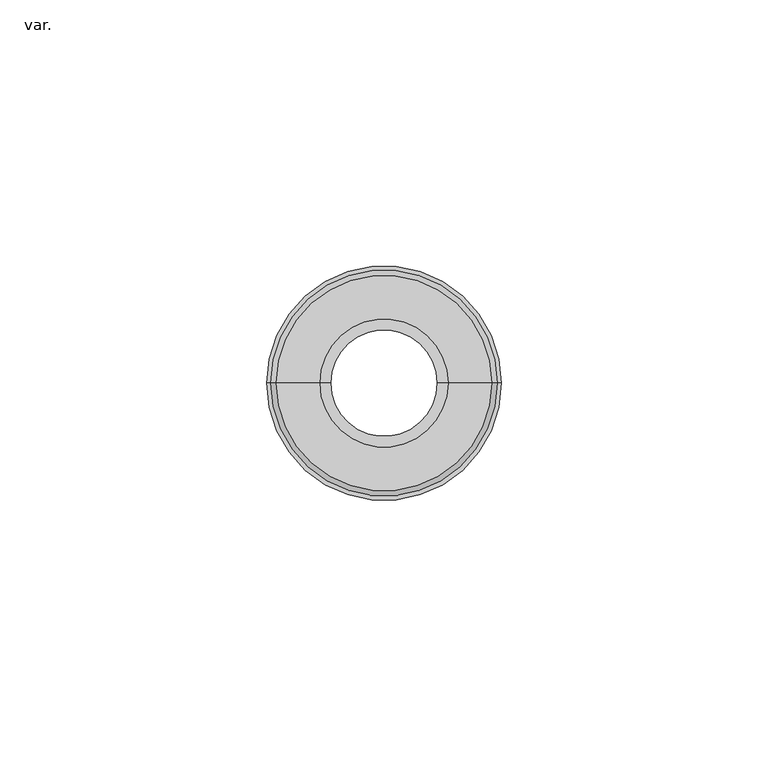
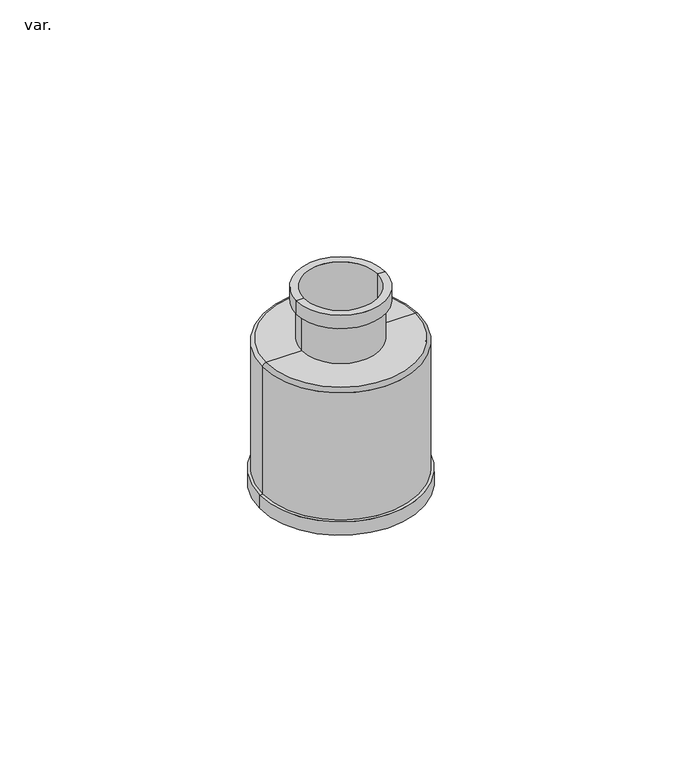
"""IFC4 building model written with IfcOpenShell, lengths in millimetres: pipe fitting geometry, AmancoWavin_ConexõesdeTubos_PEXCoifaSimple : var.."""

from ifc_helpers import new_model, si_unit, point, frame, origin, place, context, project, spatial, polyline, circle_curve, ellipse_curve, trimmed, source, transform, mapped, element, save
from ifc_brep_helpers import plane_surface, cylinder_surface, revolved_surface, advanced_brep


def var_3e1717fb(model_context):
    return source(origin(), model_context, "Body", "AdvancedBrep", [
        advanced_brep(
        [(-58.6559639, 0.0, 16.0), (-78.6559639, 0.0, 16.0), (-80.6559639, 0.0, 16.0), (-56.6559639, 0.0, 16.0), (-58.6559639, 0.0, 0.0), (-78.6559639, 0.0, 0.0), (-48.6559639, 0.0, 0.0), (-88.6559639, 0.0, 0.0), (-48.6559639, 0.0, -40.0), (-88.6559639, 0.0, -40.0), (-46.6559639, 0.0, -40.0), (-90.6559639, 0.0, -40.0), (-46.6559639, 0.0, -36.2), (-90.6559639, 0.0, -36.2), (-47.4559639, 0.0, -36.2), (-89.8559639, 0.0, -36.2), (-47.4559639, 0.0, 0.2), (-89.8559639, 0.0, 0.2), (-58.0559639, 0.0, 1.2), (-79.2559639, 0.0, 1.2), (-88.8559639, 0.0, 1.2), (-48.4559639, 0.0, 1.2), (-58.0559639, 0.0, 12.2), (-79.2559639, 0.0, 12.2), (-56.6559639, 0.0, 12.2), (-80.6559639, 0.0, 12.2)],
        [
            (0, 1, circle_curve(frame((-68.6559639, 0.0, 16.0), z_axis=(0.0, 0.0, -1.0), x_axis=(-1.0, 0.0, 0.0)), 10.0)),
            (1, 2),
            (2, 3, circle_curve(frame((-68.6559639, 0.0, 16.0), z_axis=(0.0, 0.0, 1.0), x_axis=(-1.0, 0.0, 0.0)), 12.0)),
            (3, 0),
            (1, 0, circle_curve(frame((-68.6559639, 0.0, 16.0), z_axis=(0.0, 0.0, -1.0), x_axis=(-1.0, 0.0, 0.0)), 10.0)),
            (3, 2, circle_curve(frame((-68.6559639, 0.0, 16.0), z_axis=(0.0, 0.0, 1.0), x_axis=(-1.0, 0.0, 0.0)), 12.0)),
            (4, 5, circle_curve(frame((-68.6559639, 0.0, 0.0), z_axis=(0.0, 0.0, -1.0), x_axis=(-1.0, 0.0, 0.0)), 10.0)),
            (5, 1),
            (0, 4),
            (5, 4, circle_curve(frame((-68.6559639, 0.0, 0.0), z_axis=(0.0, 0.0, -1.0), x_axis=(-1.0, 0.0, 0.0)), 10.0)),
            (6, 7, circle_curve(frame((-68.6559639, 0.0, 0.0), z_axis=(0.0, 0.0, -1.0), x_axis=(-1.0, 0.0, 0.0)), 20.0)),
            (7, 5),
            (4, 6),
            (7, 6, circle_curve(frame((-68.6559639, 0.0, 0.0), z_axis=(0.0, 0.0, -1.0), x_axis=(-1.0, 0.0, 0.0)), 20.0)),
            (8, 9, circle_curve(frame((-68.6559639, 0.0, -40.0), z_axis=(0.0, 0.0, -1.0), x_axis=(-1.0, 0.0, 0.0)), 20.0)),
            (9, 7),
            (6, 8),
            (9, 8, circle_curve(frame((-68.6559639, 0.0, -40.0), z_axis=(0.0, 0.0, -1.0), x_axis=(-1.0, 0.0, 0.0)), 20.0)),
            (10, 11, circle_curve(frame((-68.6559639, 0.0, -40.0), z_axis=(0.0, 0.0, -1.0), x_axis=(-1.0, 0.0, 0.0)), 22.0)),
            (11, 9),
            (8, 10),
            (11, 10, circle_curve(frame((-68.6559639, 0.0, -40.0), z_axis=(0.0, 0.0, -1.0), x_axis=(-1.0, 0.0, 0.0)), 22.0)),
            (12, 13, circle_curve(frame((-68.6559639, 0.0, -36.2), z_axis=(0.0, 0.0, -1.0), x_axis=(-1.0, 0.0, 0.0)), 22.0)),
            (13, 11),
            (10, 12),
            (13, 12, circle_curve(frame((-68.6559639, 0.0, -36.2), z_axis=(0.0, 0.0, -1.0), x_axis=(-1.0, 0.0, 0.0)), 22.0)),
            (14, 15, circle_curve(frame((-68.6559639, 0.0, -36.2), z_axis=(0.0, 0.0, -1.0), x_axis=(-1.0, 0.0, 0.0)), 21.2)),
            (15, 13),
            (12, 14),
            (15, 14, circle_curve(frame((-68.6559639, 0.0, -36.2), z_axis=(0.0, 0.0, -1.0), x_axis=(-1.0, 0.0, 0.0)), 21.2)),
            (16, 17, circle_curve(frame((-68.6559639, 0.0, 0.2), z_axis=(0.0, 0.0, -1.0), x_axis=(-1.0, 0.0, 0.0)), 21.2)),
            (17, 15),
            (14, 16),
            (17, 16, circle_curve(frame((-68.6559639, 0.0, 0.2), z_axis=(0.0, 0.0, -1.0), x_axis=(-1.0, 0.0, 0.0)), 21.2)),
            (18, 19, circle_curve(frame((-68.6559639, 0.0, 1.2), z_axis=(0.0, 0.0, -1.0), x_axis=(-1.0, 0.0, 0.0)), 10.6)),
            (19, 20),
            (20, 21, circle_curve(frame((-68.6559639, 0.0, 1.2), z_axis=(0.0, 0.0, 1.0), x_axis=(-1.0, 0.0, 0.0)), 20.2)),
            (21, 18),
            (19, 18, circle_curve(frame((-68.6559639, 0.0, 1.2), z_axis=(0.0, 0.0, -1.0), x_axis=(-1.0, 0.0, 0.0)), 10.6)),
            (21, 20, circle_curve(frame((-68.6559639, 0.0, 1.2), z_axis=(0.0, 0.0, 1.0), x_axis=(-1.0, 0.0, 0.0)), 20.2)),
            (22, 23, circle_curve(frame((-68.6559639, 0.0, 12.2), z_axis=(0.0, 0.0, -1.0), x_axis=(-1.0, 0.0, 0.0)), 10.6)),
            (23, 19),
            (18, 22),
            (23, 22, circle_curve(frame((-68.6559639, 0.0, 12.2), z_axis=(0.0, 0.0, -1.0), x_axis=(-1.0, 0.0, 0.0)), 10.6)),
            (24, 25, circle_curve(frame((-68.6559639, 0.0, 12.2), z_axis=(0.0, 0.0, -1.0), x_axis=(-1.0, 0.0, 0.0)), 12.0)),
            (25, 23),
            (22, 24),
            (25, 24, circle_curve(frame((-68.6559639, 0.0, 12.2), z_axis=(0.0, 0.0, -1.0), x_axis=(-1.0, 0.0, 0.0)), 12.0)),
            (2, 25),
            (24, 3),
            (20, 17, circle_curve(frame((-88.8559639, 0.0, 0.2), z_axis=(0.0, -1.0, 0.0), x_axis=(-1.0, 0.0, 0.0)), 1.0)),
            (16, 21, circle_curve(frame((-48.4559639, 0.0, 0.2), z_axis=(0.0, -1.0, 0.0), x_axis=(1.0, 0.0, 0.0)), 1.0)),
        ],
        [
            plane_surface(frame((-68.6559639, 0.0, 16.0), z_axis=(0.0, 0.0, 1.0), x_axis=(-1.0, 0.0, 0.0))),
            revolved_surface(polyline([(-78.6559639, 0.0, 16.0), (-78.6559639, 0.0, 0.0)]), (-68.6559639, 0.0, -2214.3150031), (0.0, 0.0, 1.0)),
            plane_surface(frame((-68.6559639, 0.0, 0.0), z_axis=(0.0, 0.0, -1.0), x_axis=(-1.0, 0.0, 0.0))),
            revolved_surface(polyline([(-88.6559639, 0.0, 0.0), (-88.6559639, 0.0, -40.0)]), (-68.6559639, 0.0, -2214.3150031), (0.0, 0.0, 1.0)),
            plane_surface(frame((-68.6559639, 0.0, -40.0), z_axis=(0.0, 0.0, -1.0), x_axis=(-1.0, 0.0, 0.0))),
            cylinder_surface(frame((-68.6559639, 0.0, -2214.3150031), z_axis=(0.0, 0.0, 1.0), x_axis=(-1.0, 0.0, 0.0)), 22.0),
            plane_surface(frame((-68.6559639, 0.0, -36.2), z_axis=(0.0, 0.0, 1.0), x_axis=(-1.0, 0.0, 0.0))),
            cylinder_surface(frame((-68.6559639, 0.0, -2214.3150031), z_axis=(0.0, 0.0, 1.0), x_axis=(-1.0, 0.0, 0.0)), 21.2),
            plane_surface(frame((-68.6559639, 0.0, 1.2), z_axis=(0.0, 0.0, 1.0), x_axis=(-1.0, 0.0, 0.0))),
            cylinder_surface(frame((-68.6559639, 0.0, -2214.3150031), z_axis=(0.0, 0.0, 1.0), x_axis=(-1.0, 0.0, 0.0)), 10.6),
            plane_surface(frame((-68.6559639, 0.0, 12.2), z_axis=(0.0, 0.0, -1.0), x_axis=(-1.0, 0.0, 0.0))),
            cylinder_surface(frame((-68.6559639, 0.0, -2214.3150031), z_axis=(0.0, 0.0, 1.0), x_axis=(-1.0, 0.0, 0.0)), 12.0),
            revolved_surface(trimmed(ellipse_curve(frame((-88.8559639, 0.0, 0.2), z_axis=(0.0, 1.0, 0.0), x_axis=(-1.0, 0.0, 0.0)), 1.0, 1.0), [point((-89.8559639, 0.0, 0.2))], [point((-88.8559639, 0.0, 1.2))], True, "CARTESIAN"), (-68.6559639, 0.0, -2214.3150031), (0.0, 0.0, 1.0)),
        ],
        [
            (0, [[1, 2, 3, 4]]),
            (0, [[5, -4, 6, -2]]),
            (1, [[7, 8, -1, 9]]),
            (1, [[10, -9, -5, -8]]),
            (2, [[11, 12, -7, 13]]),
            (2, [[14, -13, -10, -12]]),
            (3, [[15, 16, -11, 17]]),
            (3, [[18, -17, -14, -16]]),
            (4, [[19, 20, -15, 21]]),
            (4, [[22, -21, -18, -20]]),
            (5, [[23, 24, -19, 25]]),
            (5, [[26, -25, -22, -24]]),
            (6, [[27, 28, -23, 29]]),
            (6, [[30, -29, -26, -28]]),
            (7, [[31, 32, -27, 33]]),
            (7, [[34, -33, -30, -32]]),
            (8, [[35, 36, 37, 38]]),
            (8, [[39, -38, 40, -36]]),
            (9, [[41, 42, -35, 43]]),
            (9, [[44, -43, -39, -42]]),
            (10, [[45, 46, -41, 47]]),
            (10, [[48, -47, -44, -46]]),
            (11, [[-3, 49, -45, 50]]),
            (11, [[-6, -50, -48, -49]]),
            (12, [[-37, 51, -31, 52]]),
            (12, [[-40, -52, -34, -51]]),
        ],
    ),
    ])


if __name__ == "__main__":
    model = new_model("IFC4")
    model_context = context("Model", 3, world=origin())
    ifc_project = project(units=[si_unit("LENGTHUNIT", "METRE", prefix="MILLI")], contexts=[model_context])
    site = spatial("IfcSite", under=ifc_project)
    building = spatial("IfcBuilding", under=site)
    placement = place(None, origin())
    var_shape = var_3e1717fb(model_context)
    element("IfcPipeFitting", 1, ObjectType="AmancoWavin_ConexõesdeTubos_PEXCoifaSimple : var.", at=placement, inside=building, context=model_context, shape_type="MappedRepresentation", body=[
        mapped(var_shape, transform((0.0, 0.0, 0.0), x_axis=(1.0, 0.0, 0.0), y_axis=(0.0, 1.0, 0.0), z_axis=(0.0, 0.0, 1.0))),
    ])
    save(model, "model.ifc")
